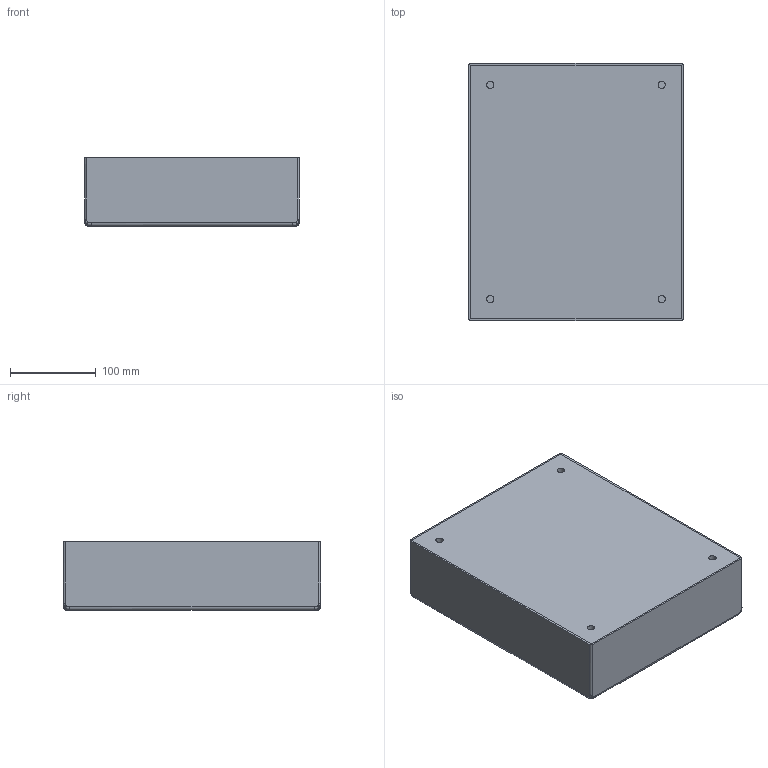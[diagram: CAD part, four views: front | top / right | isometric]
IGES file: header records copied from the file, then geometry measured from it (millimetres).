
Global section: file name: SMB-25-30; native system: unknown; preprocessor: unknown; author: unknown; organization: unknown; date: 20230705.141552; units: millimetre
Bounding box: 250 x 300 x 80 mm (x, y, z)
Volume: 1188236.9 mm3; surface area: 478883.9 mm2
Topology: 2 solids, 2 shells, 57 faces, 148 edges, 96 vertices
Faces by surface type: bspline 57
